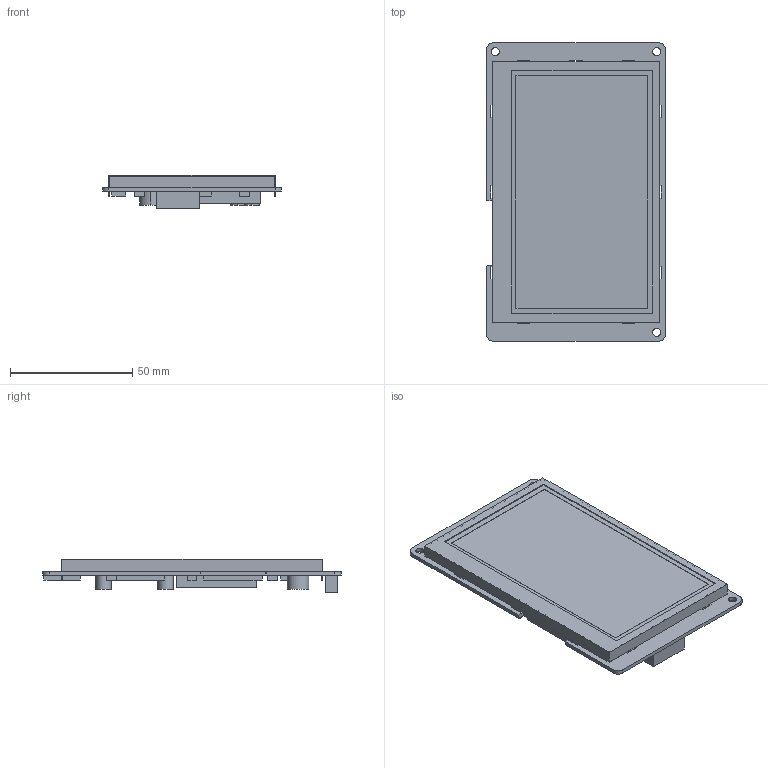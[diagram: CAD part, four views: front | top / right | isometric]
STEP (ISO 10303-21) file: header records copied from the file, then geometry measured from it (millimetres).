
FILE_DESCRIPTION((''),'2;1');
FILE_NAME('DMG48270C043-05WN','2022-01-13T',('Administrator'),(''),'PRO/ENGINEER BY PARAMETRIC TECHNOLOGY CORPORATION, 2011310','PRO/ENGINEER BY PARAMETRIC TECHNOLOGY CORPORATION, 2011310','');
FILE_SCHEMA(('CONFIG_CONTROL_DESIGN','SHAPE_APPEARANCE_LAYERS_GROUPS'));
Length unit declared in the file: millimetre
Products named in the file (1): DMG48270C043-05WN
Bounding box: 73.15 x 121.92 x 13.8 mm (x, y, z)
Volume: 44796.2 mm3; surface area: 39414.5 mm2
Topology: 1 solids, 1 shells, 267 faces, 762 edges, 500 vertices
Faces by surface type: plane 216, cylinder 51
Entity records: 10513 total; most frequent: CARTESIAN_POINT 1529, ORIENTED_EDGE 1524, DIRECTION 1398, EDGE_CURVE 762, VECTOR 660, LINE 660, VERTEX_POINT 500, AXIS2_PLACEMENT_3D 369
